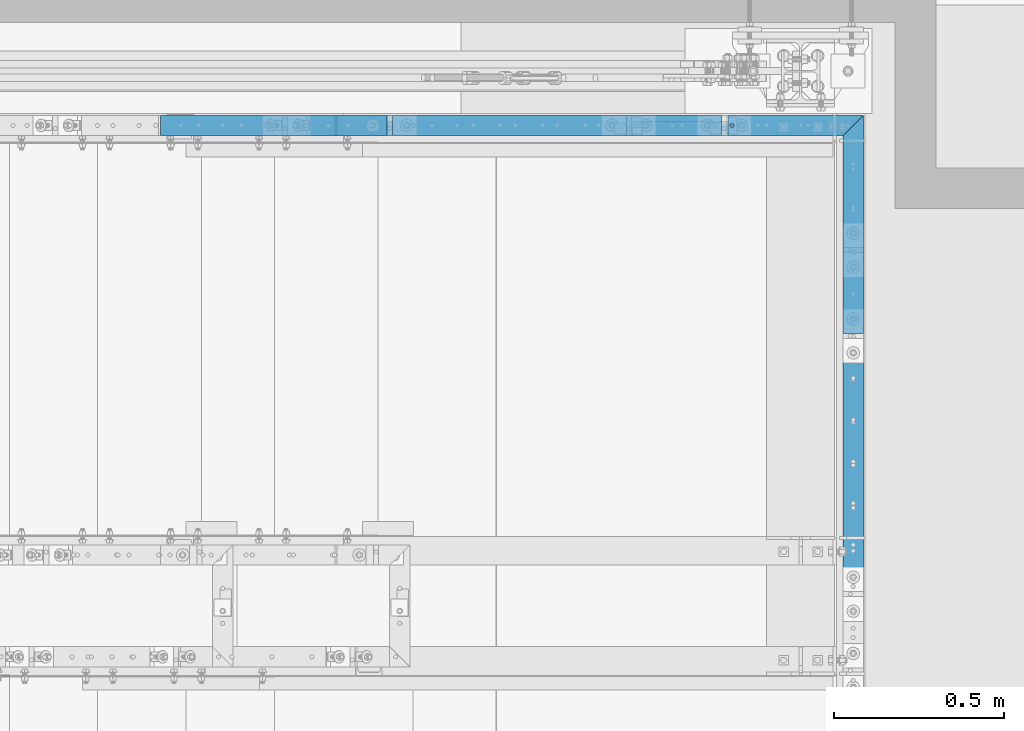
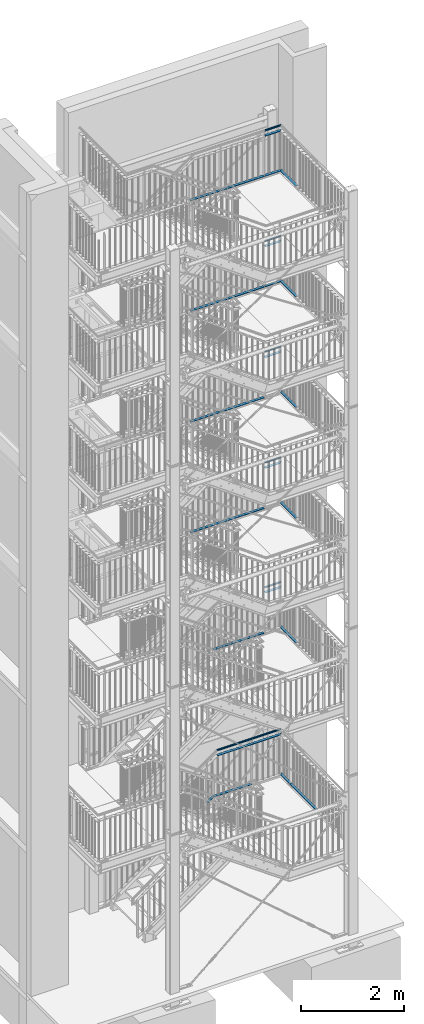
# One storey, part 143 of 831: 34 beams, 1 member, 32 openings.
"""IFC2X3 building model written with IfcOpenShell, lengths in millimetres."""

from ifc_helpers import new_model, entity, si_unit, converted_unit, frame, origin, origin_with_axes, origin_2d, origin_2d_with_axis, place, context, project, spatial, polyline, rectangle, circle, hollow_circle, outline, extrude, clip, halfspace, material, element, save


model = new_model("IFC2X3")

# Units and contexts
model_context = context("Model", 3, precision=1e-09, world=origin_with_axes())
ifc_project = project(units=[si_unit("LENGTHUNIT", "METRE", prefix="MILLI"), si_unit("AREAUNIT", "SQUARE_METRE"), si_unit("VOLUMEUNIT", "CUBIC_METRE"), converted_unit("PLANEANGLEUNIT", "DEGREE", entity("IfcPlaneAngleMeasure", 0.01745329), si_unit("PLANEANGLEUNIT", "RADIAN"), dimensions=[0, 0, 0, 0, 0, 0, 0])], contexts=[model_context])

# Site, building, storey
site_placement = place(None, origin_with_axes())
site = spatial("IfcSite", under=ifc_project, at=site_placement, Name="Site", CompositionType="ELEMENT")
building_placement = place(site_placement, origin_with_axes())
building = spatial("IfcBuilding", under=site, at=building_placement, Name="Struktur 1", CompositionType="ELEMENT")
storey_placement = place(building_placement, origin_with_axes())
storey = spatial("IfcBuildingStorey", under=building, at=storey_placement, Name="Default Storey", CompositionType="ELEMENT", Elevation=0.0)

# Beam, opening
ifc_material = material(Name="S235JR")
beam_1_placement = place(None, frame((6982.019450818, 7356.736971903, 13961.5000001), z_axis=(-1.0, 0.0, 0.0), x_axis=(0.0, 0.0, -1.0)))
beam_1 = element("IfcBeam", 1, at=beam_1_placement, inside=storey, material=ifc_material, Name="Railing_Kneerail_Landing#5", ObjectType="Railing_Kneerail_Landing#5", context=model_context, shape_type="SweptSolid", body=[
    extrude(rectangle(XDim=10.0, YDim=60.0, at=origin_2d()), origin(), (0.0, 0.0, -1.0), 674.694380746),
])
opening_1_placement = place(beam_1_placement, frame((60.0, 0.0, -674.694380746), z_axis=(-1.0, 0.0, 0.0), x_axis=(0.0, 0.0, -1.0)))
element("IfcOpeningElement", 2, at=opening_1_placement, cuts=beam_1, ObjectType="Opening", context=model_context, shape_type="SweptSolid", body=[
    extrude(outline(polyline([(7.501, -30.001), (7.501, 30.001), (-7.501, 30.001), (-7.501, -30.001), (7.501, -30.001)])), origin(), (0.0, 0.0, 1.0), 120.0),
])

# Beam, openings
beam_2_placement = place(None, frame((7656.713831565, 7356.736971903, 13961.5000001), z_axis=(-1.0, 0.0, 0.0), x_axis=(0.0, 0.0, -1.0)))
beam_2 = element("IfcBeam", 3, at=beam_2_placement, inside=storey, material=ifc_material, Name="Railing_Kneerail_Landing#6", ObjectType="Railing_Kneerail_Landing#6", context=model_context, shape_type="SweptSolid", body=[
    extrude(rectangle(XDim=10.0, YDim=60.0, at=origin_2d()), origin(), (0.0, 0.0, -1.0), 985.000142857),
])
opening_2_placement = place(beam_2_placement, frame((60.0, 0.0, -985.000142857), z_axis=(-1.0, 0.0, 0.0), x_axis=(0.0, 0.0, -1.0)))
element("IfcOpeningElement", 4, at=opening_2_placement, cuts=beam_2, ObjectType="Opening", context=model_context, shape_type="SweptSolid", body=[
    extrude(outline(polyline([(-977.499142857, -30.001), (-977.499142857, 30.001), (-992.501142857, 30.001), (-992.501142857, -30.001), (-977.499142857, -30.001)])), origin(), (0.0, 0.0, 1.0), 120.0),
])
opening_3_placement = place(beam_2_placement, frame((60.0, 0.0, -985.000142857), z_axis=(-1.0, 0.0, 0.0), x_axis=(0.0, 0.0, -1.0)))
element("IfcOpeningElement", 5, at=opening_3_placement, cuts=beam_2, ObjectType="Opening", context=model_context, shape_type="SweptSolid", body=[
    extrude(outline(polyline([(7.501, -30.001), (7.501, 30.001), (-7.501, 30.001), (-7.501, -30.001), (7.501, -30.001)])), origin(), (0.0, 0.0, 1.0), 120.0),
])

# Beam, opening
beam_3_placement = place(None, frame((8652.213974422, 7356.736971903, 13961.5000001), z_axis=(-1.0, 0.0, 0.0), x_axis=(0.0, 0.0, -1.0)))
beam_3 = element("IfcBeam", 6, at=beam_3_placement, inside=storey, material=ifc_material, Name="Railing_Kneerail_Landing#7", ObjectType="Railing_Kneerail_Landing#7", context=model_context, shape_type="Clipping", body=[
    clip(extrude(rectangle(XDim=10.0, YDim=60.0, at=origin_2d()), origin(), (0.0, 0.0, -1.0), 412.511054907), halfspace(frame((13961.5000001, 8189.224480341, 7819.726465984), z_axis=(0.0, -0.707106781, 0.707106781), x_axis=(0.0, 0.707106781, 0.707106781)), True)),
])
opening_4_placement = place(beam_3_placement, frame((5.5, 0.0, -11.999999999), z_axis=(-1.0, 0.0, 0.0), x_axis=(0.0, 0.0, -1.0)))
element("IfcOpeningElement", 7, at=opening_4_placement, cuts=beam_3, ObjectType="Opening", context=model_context, shape_type="SweptSolid", body=[
    extrude(circle(Radius=5.001, at=origin_2d_with_axis()), origin(), (0.0, 0.0, 1.0), 11.0),
])

beam_4_placement = place(None, frame((9021.713402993, 7399.748598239, 13961.5000001), z_axis=(0.0, 1.0, 0.0), x_axis=(0.0, 0.0, -1.0)))
beam_4 = element("IfcBeam", 8, at=beam_4_placement, inside=storey, material=ifc_material, Name="Railing_Kneerail_Landing#8", ObjectType="Railing_Kneerail_Landing#8", context=model_context, shape_type="Clipping", body=[
    clip(extrude(rectangle(XDim=10.0, YDim=60.0, at=origin_2d()), origin(), (0.0, 0.0, -1.0), 663.012340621), halfspace(frame((13961.5000001, 8189.224480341, -8232.23752089), z_axis=(0.0, -0.707106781, -0.707106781), x_axis=(0.0, -0.707106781, 0.707106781)), True)),
])
opening_5_placement = place(beam_4_placement, frame((60.0, 0.0, -663.012340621), z_axis=(-1.0, 0.0, 0.0), x_axis=(0.0, -1.0, 0.0)))
element("IfcOpeningElement", 9, at=opening_5_placement, cuts=beam_4, ObjectType="Opening", context=model_context, shape_type="SweptSolid", body=[
    extrude(outline(polyline([(-30.001, -7.501), (30.001, -7.501), (30.001, 7.501), (-30.001, 7.501), (-30.001, -7.501)])), origin(), (0.0, 0.0, 1.0), 120.0),
])

beam_5_placement = place(None, frame((6981.792867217, 7356.736971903, 16589.0000003), z_axis=(-1.0, 0.0, 0.0), x_axis=(0.0, 0.0, -1.0)))
beam_5 = element("IfcBeam", 10, at=beam_5_placement, inside=storey, material=ifc_material, Name="Railing_Kneerail_Landing#5", ObjectType="Railing_Kneerail_Landing#5", context=model_context, shape_type="SweptSolid", body=[
    extrude(rectangle(XDim=10.0, YDim=60.0, at=origin_2d()), origin(), (0.0, 0.0, -1.0), 674.920964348),
])
opening_6_placement = place(beam_5_placement, frame((60.0, 0.0, -674.920964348), z_axis=(-1.0, 0.0, 0.0), x_axis=(0.0, 0.0, -1.0)))
element("IfcOpeningElement", 11, at=opening_6_placement, cuts=beam_5, ObjectType="Opening", context=model_context, shape_type="SweptSolid", body=[
    extrude(outline(polyline([(7.501, -30.001), (7.501, 30.001), (-7.501, 30.001), (-7.501, -30.001), (7.501, -30.001)])), origin(), (0.0, 0.0, 1.0), 120.0),
])

# Beam, openings
beam_6_placement = place(None, frame((7656.713831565, 7356.736971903, 16589.0000003), z_axis=(-1.0, 0.0, 0.0), x_axis=(0.0, 0.0, -1.0)))
beam_6 = element("IfcBeam", 12, at=beam_6_placement, inside=storey, material=ifc_material, Name="Railing_Kneerail_Landing#6", ObjectType="Railing_Kneerail_Landing#6", context=model_context, shape_type="SweptSolid", body=[
    extrude(rectangle(XDim=10.0, YDim=60.0, at=origin_2d()), origin(), (0.0, 0.0, -1.0), 985.000142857),
])
opening_7_placement = place(beam_6_placement, frame((60.0, 0.0, -985.000142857), z_axis=(-1.0, 0.0, 0.0), x_axis=(0.0, 0.0, -1.0)))
element("IfcOpeningElement", 13, at=opening_7_placement, cuts=beam_6, ObjectType="Opening", context=model_context, shape_type="SweptSolid", body=[
    extrude(outline(polyline([(-977.499142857, -30.001), (-977.499142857, 30.001), (-992.501142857, 30.001), (-992.501142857, -30.001), (-977.499142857, -30.001)])), origin(), (0.0, 0.0, 1.0), 120.0),
])
opening_8_placement = place(beam_6_placement, frame((60.0, 0.0, -985.000142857), z_axis=(-1.0, 0.0, 0.0), x_axis=(0.0, 0.0, -1.0)))
element("IfcOpeningElement", 14, at=opening_8_placement, cuts=beam_6, ObjectType="Opening", context=model_context, shape_type="SweptSolid", body=[
    extrude(outline(polyline([(7.501, -30.001), (7.501, 30.001), (-7.501, 30.001), (-7.501, -30.001), (7.501, -30.001)])), origin(), (0.0, 0.0, 1.0), 120.0),
])

# Beam, opening
beam_7_placement = place(None, frame((8652.213974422, 7356.736971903, 16589.0000003), z_axis=(-1.0, 0.0, 0.0), x_axis=(0.0, 0.0, -1.0)))
beam_7 = element("IfcBeam", 15, at=beam_7_placement, inside=storey, material=ifc_material, Name="Railing_Kneerail_Landing#7", ObjectType="Railing_Kneerail_Landing#7", context=model_context, shape_type="Clipping", body=[
    clip(extrude(rectangle(XDim=10.0, YDim=60.0, at=origin_2d()), origin(), (0.0, 0.0, -1.0), 412.511054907), halfspace(frame((16589.0000003, 8189.224480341, 7819.726465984), z_axis=(0.0, -0.707106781, 0.707106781), x_axis=(0.0, 0.707106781, 0.707106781)), True)),
])
opening_9_placement = place(beam_7_placement, frame((5.5, 0.0, -11.999999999), z_axis=(-1.0, 0.0, 0.0), x_axis=(0.0, 0.0, -1.0)))
element("IfcOpeningElement", 16, at=opening_9_placement, cuts=beam_7, ObjectType="Opening", context=model_context, shape_type="SweptSolid", body=[
    extrude(circle(Radius=5.001, at=origin_2d_with_axis()), origin(), (0.0, 0.0, 1.0), 11.0),
])

beam_8_placement = place(None, frame((9021.713402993, 7399.748598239, 16589.0000003), z_axis=(0.0, 1.0, 0.0), x_axis=(0.0, 0.0, -1.0)))
beam_8 = element("IfcBeam", 17, at=beam_8_placement, inside=storey, material=ifc_material, Name="Railing_Kneerail_Landing#8", ObjectType="Railing_Kneerail_Landing#8", context=model_context, shape_type="Clipping", body=[
    clip(extrude(rectangle(XDim=10.0, YDim=60.0, at=origin_2d()), origin(), (0.0, 0.0, -1.0), 663.012340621), halfspace(frame((16589.0000003, 8189.224480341, -8232.23752089), z_axis=(0.0, -0.707106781, -0.707106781), x_axis=(0.0, -0.707106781, 0.707106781)), True)),
])
opening_10_placement = place(beam_8_placement, frame((60.0, 0.0, -663.012340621), z_axis=(-1.0, 0.0, 0.0), x_axis=(0.0, -1.0, 0.0)))
element("IfcOpeningElement", 18, at=opening_10_placement, cuts=beam_8, ObjectType="Opening", context=model_context, shape_type="SweptSolid", body=[
    extrude(outline(polyline([(-30.001, -7.501), (30.001, -7.501), (30.001, 7.501), (-30.001, 7.501), (-30.001, -7.501)])), origin(), (0.0, 0.0, 1.0), 120.0),
])

beam_9_placement = place(None, frame((8652.213974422, 7356.736971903, 17537.8000003), z_axis=(-1.0, 0.0, 0.0), x_axis=(0.0, 0.0, -1.0)))
beam_9 = element("IfcBeam", 19, at=beam_9_placement, inside=storey, material=ifc_material, Name="Railing_Kneerail_Landing#1005", ObjectType="Railing_Kneerail_Landing#1005", context=model_context, shape_type="Clipping", body=[
    clip(extrude(rectangle(XDim=10.0, YDim=60.0, at=origin_2d()), origin(), (0.0, 0.0, -1.0), 412.511054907), halfspace(frame((17537.8000003, 8189.224480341, 7819.726465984), z_axis=(0.0, -0.707106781, 0.707106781), x_axis=(0.0, 0.707106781, 0.707106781)), True)),
])
opening_11_placement = place(beam_9_placement, frame((5.5, 0.0, -11.999999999), z_axis=(-1.0, 0.0, 0.0), x_axis=(0.0, 0.0, -1.0)))
element("IfcOpeningElement", 20, at=opening_11_placement, cuts=beam_9, ObjectType="Opening", context=model_context, shape_type="SweptSolid", body=[
    extrude(circle(Radius=5.001, at=origin_2d_with_axis()), origin(), (0.0, 0.0, 1.0), 11.0),
])

# Beam
beam_10_placement = place(None, frame((8652.213974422, 7347.936971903, 17664.0000003), z_axis=(-1.0, 0.0, 0.0), x_axis=(0.0, 0.0, -1.0)))
element("IfcBeam", 21, at=beam_10_placement, inside=storey, material=ifc_material, Name="Railing_Handrail_Landing#4", ObjectType="Railing_Handrail_Landing#4", context=model_context, shape_type="Clipping", body=[
    clip(extrude(hollow_circle(Radius=21.2, WallThickness=3.2, at=origin_2d()), origin(), (0.0, 0.0, -1.0), 403.099428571), halfspace(frame((17664.0000003, 8180.424480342, 7819.726465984), z_axis=(0.0, -0.707106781, 0.707106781), x_axis=(0.0, 0.707106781, 0.707106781)), True)),
])

# Beam, opening
beam_11_placement = place(None, frame((8652.213974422, 7356.736971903, 14910.3000001), z_axis=(-1.0, 0.0, 0.0), x_axis=(0.0, 0.0, -1.0)))
beam_11 = element("IfcBeam", 22, at=beam_11_placement, inside=storey, material=ifc_material, Name="Railing_Kneerail_Landing#1005", ObjectType="Railing_Kneerail_Landing#1005", context=model_context, shape_type="Clipping", body=[
    clip(extrude(rectangle(XDim=10.0, YDim=60.0, at=origin_2d()), origin(), (0.0, 0.0, -1.0), 412.511054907), halfspace(frame((14910.3000001, 8189.224480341, 7819.726465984), z_axis=(0.0, -0.707106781, 0.707106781), x_axis=(0.0, 0.707106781, 0.707106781)), True)),
])
opening_12_placement = place(beam_11_placement, frame((5.5, 0.0, -11.999999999), z_axis=(-1.0, 0.0, 0.0), x_axis=(0.0, 0.0, -1.0)))
element("IfcOpeningElement", 23, at=opening_12_placement, cuts=beam_11, ObjectType="Opening", context=model_context, shape_type="SweptSolid", body=[
    extrude(circle(Radius=5.001, at=origin_2d_with_axis()), origin(), (0.0, 0.0, 1.0), 11.0),
])

# Beam
beam_12_placement = place(None, frame((8652.213974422, 7347.936971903, 15036.5000001), z_axis=(-1.0, 0.0, 0.0), x_axis=(0.0, 0.0, -1.0)))
element("IfcBeam", 24, at=beam_12_placement, inside=storey, material=ifc_material, Name="Railing_Handrail_Landing#4", ObjectType="Railing_Handrail_Landing#4", context=model_context, shape_type="Clipping", body=[
    clip(extrude(hollow_circle(Radius=21.2, WallThickness=3.2, at=origin_2d()), origin(), (0.0, 0.0, -1.0), 403.099428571), halfspace(frame((15036.5000001, 8180.424480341, 7819.726465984), z_axis=(0.0, -0.707106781, 0.707106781), x_axis=(0.0, 0.707106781, 0.707106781)), True)),
])

# Beam, opening
beam_13_placement = place(None, frame((8652.213974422, 7356.736971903, 12279.3000003), z_axis=(-1.0, 0.0, 0.0), x_axis=(0.0, 0.0, -1.0)))
beam_13 = element("IfcBeam", 25, at=beam_13_placement, inside=storey, material=ifc_material, Name="Railing_Kneerail_Landing#1005", ObjectType="Railing_Kneerail_Landing#1005", context=model_context, shape_type="Clipping", body=[
    clip(extrude(rectangle(XDim=10.0, YDim=60.0, at=origin_2d()), origin(), (0.0, 0.0, -1.0), 412.511054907), halfspace(frame((12279.3000003, 8189.224480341, 7819.726465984), z_axis=(0.0, -0.707106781, 0.707106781), x_axis=(0.0, 0.707106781, 0.707106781)), True)),
])
opening_13_placement = place(beam_13_placement, frame((5.5, 0.0, -11.999999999), z_axis=(-1.0, 0.0, 0.0), x_axis=(0.0, 0.0, -1.0)))
element("IfcOpeningElement", 26, at=opening_13_placement, cuts=beam_13, ObjectType="Opening", context=model_context, shape_type="SweptSolid", body=[
    extrude(circle(Radius=5.001, at=origin_2d_with_axis()), origin(), (0.0, 0.0, 1.0), 11.0),
])

# Beam
beam_14_placement = place(None, frame((8652.213974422, 7347.936971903, 12405.5000003), z_axis=(-1.0, 0.0, 0.0), x_axis=(0.0, 0.0, -1.0)))
element("IfcBeam", 27, at=beam_14_placement, inside=storey, material=ifc_material, Name="Railing_Handrail_Landing#4", ObjectType="Railing_Handrail_Landing#4", context=model_context, shape_type="Clipping", body=[
    clip(extrude(hollow_circle(Radius=21.2, WallThickness=3.2, at=origin_2d()), origin(), (0.0, 0.0, -1.0), 403.099428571), halfspace(frame((12405.5000003, 8180.424480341, 7819.726465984), z_axis=(0.0, -0.707106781, 0.707106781), x_axis=(0.0, 0.707106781, 0.707106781)), True)),
])

# Beam, opening
beam_15_placement = place(None, frame((8652.213974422, 7356.736971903, 9649.8), z_axis=(-1.0, 0.0, 0.0), x_axis=(0.0, 0.0, -1.0)))
beam_15 = element("IfcBeam", 28, at=beam_15_placement, inside=storey, material=ifc_material, Name="Railing_Kneerail_Landing#1005", ObjectType="Railing_Kneerail_Landing#1005", context=model_context, shape_type="Clipping", body=[
    clip(extrude(rectangle(XDim=10.0, YDim=60.0, at=origin_2d()), origin(), (0.0, 0.0, -1.0), 412.511054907), halfspace(frame((9649.8, 8189.224480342, 7819.726465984), z_axis=(0.0, -0.707106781, 0.707106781), x_axis=(0.0, 0.707106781, 0.707106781)), True)),
])
opening_14_placement = place(beam_15_placement, frame((5.5, 0.0, -11.999999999), z_axis=(-1.0, 0.0, 0.0), x_axis=(0.0, 0.0, -1.0)))
element("IfcOpeningElement", 29, at=opening_14_placement, cuts=beam_15, ObjectType="Opening", context=model_context, shape_type="SweptSolid", body=[
    extrude(circle(Radius=5.001, at=origin_2d_with_axis()), origin(), (0.0, 0.0, 1.0), 11.0),
])

# Beam
beam_16_placement = place(None, frame((8652.213974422, 7347.936971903, 9776.0), z_axis=(-1.0, 0.0, 0.0), x_axis=(0.0, 0.0, -1.0)))
element("IfcBeam", 30, at=beam_16_placement, inside=storey, material=ifc_material, Name="Railing_Handrail_Landing#4", ObjectType="Railing_Handrail_Landing#4", context=model_context, shape_type="Clipping", body=[
    clip(extrude(hollow_circle(Radius=21.2, WallThickness=3.2, at=origin_2d()), origin(), (0.0, 0.0, -1.0), 403.099428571), halfspace(frame((9776.0, 8180.424480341, 7819.726465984), z_axis=(0.0, -0.707106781, 0.707106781), x_axis=(0.0, 0.707106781, 0.707106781)), True)),
])

# Beam, opening
beam_17_placement = place(None, frame((8652.213974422, 7356.736971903, 6688.6947367), z_axis=(-1.0, 0.0, 0.0), x_axis=(0.0, 0.0, -1.0)))
beam_17 = element("IfcBeam", 31, at=beam_17_placement, inside=storey, material=ifc_material, Name="Railing_Kneerail_Landing#1005", ObjectType="Railing_Kneerail_Landing#1005", context=model_context, shape_type="Clipping", body=[
    clip(extrude(rectangle(XDim=10.0, YDim=60.0, at=origin_2d()), origin(), (0.0, 0.0, -1.0), 412.511054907), halfspace(frame((6688.6947367, 8189.224480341, 7819.726465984), z_axis=(0.0, -0.707106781, 0.707106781), x_axis=(0.0, 0.707106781, 0.707106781)), True)),
])
opening_15_placement = place(beam_17_placement, frame((5.5, 0.0, -11.999999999), z_axis=(-1.0, 0.0, 0.0), x_axis=(0.0, 0.0, -1.0)))
element("IfcOpeningElement", 32, at=opening_15_placement, cuts=beam_17, ObjectType="Opening", context=model_context, shape_type="SweptSolid", body=[
    extrude(circle(Radius=5.001, at=origin_2d_with_axis()), origin(), (0.0, 0.0, 1.0), 11.0),
])

# Beams
beam_18_placement = place(None, frame((8652.213974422, 7347.936971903, 6814.8947367), z_axis=(-1.0, 0.0, 0.0), x_axis=(0.0, 0.0, -1.0)))
element("IfcBeam", 33, at=beam_18_placement, inside=storey, material=ifc_material, Name="Railing_Handrail_Landing#4", ObjectType="Railing_Handrail_Landing#4", context=model_context, shape_type="Clipping", body=[
    clip(extrude(hollow_circle(Radius=21.2, WallThickness=3.2, at=origin_2d()), origin(), (0.0, 0.0, -1.0), 403.099428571), halfspace(frame((6814.8947367, 8180.424480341, 7819.726465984), z_axis=(0.0, -0.707106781, 0.707106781), x_axis=(0.0, 0.707106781, 0.707106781)), True)),
])
beam_19_placement = place(None, frame((7586.685208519, 7356.736971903, 3194.8526312), z_axis=(-1.0, 0.0, 0.0), x_axis=(0.0, 0.0, -1.0)))
element("IfcBeam", 34, at=beam_19_placement, inside=storey, material=ifc_material, Name="Railing_Kneerail_Landing#1004", ObjectType="Railing_Kneerail_Landing#1004", context=model_context, shape_type="SweptSolid", body=[
    extrude(rectangle(XDim=10.0, YDim=60.0, at=origin_2d()), origin(), (0.0, 0.0, -1.0), 781.759017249),
])

# Beam, opening
beam_20_placement = place(None, frame((8371.444225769, 7356.736971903, 3194.8526312), z_axis=(-1.0, 0.0, 0.0), x_axis=(0.0, 0.0, -1.0)))
beam_20 = element("IfcBeam", 35, at=beam_20_placement, inside=storey, material=ifc_material, Name="Railing_Kneerail_Landing#1004", ObjectType="Railing_Kneerail_Landing#1004", context=model_context, shape_type="Clipping", body=[
    clip(extrude(rectangle(XDim=10.0, YDim=60.0, at=origin_2d()), origin(), (0.0, 0.0, -1.0), 693.28080356), halfspace(frame((3194.8526312, 8189.224480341, 7538.95671733), z_axis=(0.0, -0.707106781, 0.707106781), x_axis=(0.0, 0.707106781, 0.707106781)), True)),
])
opening_16_placement = place(beam_20_placement, frame((5.5, 0.0, -11.999999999), z_axis=(-1.0, 0.0, 0.0), x_axis=(0.0, 0.0, -1.0)))
element("IfcOpeningElement", 36, at=opening_16_placement, cuts=beam_20, ObjectType="Opening", context=model_context, shape_type="SweptSolid", body=[
    extrude(circle(Radius=5.001, at=origin_2d_with_axis()), origin(), (0.0, 0.0, 1.0), 11.0),
])

# Beams
beam_21_placement = place(None, frame((7545.238006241, 7347.936971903, 3321.0526312), z_axis=(-1.0, 0.0, 0.0), x_axis=(0.0, 0.0, -1.0)))
element("IfcBeam", 37, at=beam_21_placement, inside=storey, material=ifc_material, Name="Railing_Handrail_Landing#3", ObjectType="Railing_Handrail_Landing#3", context=model_context, shape_type="Clipping", body=[
    clip(extrude(hollow_circle(Radius=21.2, WallThickness=3.2, at=origin_2d()), origin(), (0.0, 0.0, -1.0), 823.206219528), halfspace(frame((816.100663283, 7347.936971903, -292.309687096), z_axis=(-0.304437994, 0.0, -0.952532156), x_axis=(0.0, -1.0, 0.0)), True)),
])
beam_22_placement = place(None, frame((8371.444225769, 7347.936971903, 3321.0526312), z_axis=(-1.0, 0.0, 0.0), x_axis=(0.0, 0.0, -1.0)))
element("IfcBeam", 38, at=beam_22_placement, inside=storey, material=ifc_material, Name="Railing_Handrail_Landing#3", ObjectType="Railing_Handrail_Landing#3", context=model_context, shape_type="Clipping", body=[
    clip(extrude(hollow_circle(Radius=21.2, WallThickness=3.2, at=origin_2d()), origin(), (0.0, 0.0, -1.0), 683.869177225), halfspace(frame((3321.0526312, 8180.424480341, 7538.95671733), z_axis=(0.0, -0.707106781, 0.707106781), x_axis=(0.0, 0.707106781, 0.707106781)), True)),
])

# Member
member_placement = place(None, frame((7358.266977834, 7356.736971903, 2145.321492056), z_axis=(-0.814635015, 0.0, -0.579973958), x_axis=(0.579973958, 0.0, -0.814635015)))
element("IfcMember", 39, at=member_placement, inside=storey, material=ifc_material, Name="Railing_Kneerail_Stair#3", ObjectType="Railing_Kneerail_Stair#3", context=model_context, shape_type="SweptSolid", body=[
    extrude(rectangle(XDim=10.0, YDim=60.0, at=origin_2d()), origin(), (0.0, 0.0, -1.0), 172.084130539),
])

# Beam, opening
beam_23_placement = place(None, frame((7501.352605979, 7356.736971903, 2246.0526312), z_axis=(-1.0, 0.0, 0.0), x_axis=(0.0, 0.0, -1.0)))
beam_23 = element("IfcBeam", 40, at=beam_23_placement, inside=storey, material=ifc_material, Name="Railing_Kneerail_Landing#4", ObjectType="Railing_Kneerail_Landing#4", context=model_context, shape_type="SweptSolid", body=[
    extrude(rectangle(XDim=10.0, YDim=60.0, at=origin_2d()), origin(), (0.0, 0.0, -1.0), 859.59161979),
])
opening_17_placement = place(beam_23_placement, frame((60.0, 0.0, -859.59161979), z_axis=(-1.0, 0.0, 0.0), x_axis=(0.0, 0.0, -1.0)))
element("IfcOpeningElement", 41, at=opening_17_placement, cuts=beam_23, ObjectType="Opening", context=model_context, shape_type="SweptSolid", body=[
    extrude(outline(polyline([(7.501, -30.001), (7.501, 30.001), (-7.501, 30.001), (-7.501, -30.001), (7.501, -30.001)])), origin(), (0.0, 0.0, 1.0), 120.0),
])

beam_24_placement = place(None, frame((9021.713402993, 7399.748598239, 2246.0526312), z_axis=(0.0, 1.0, 0.0), x_axis=(0.0, 0.0, -1.0)))
beam_24 = element("IfcBeam", 42, at=beam_24_placement, inside=storey, material=ifc_material, Name="Railing_Kneerail_Landing#6", ObjectType="Railing_Kneerail_Landing#6", context=model_context, shape_type="Clipping", body=[
    clip(extrude(rectangle(XDim=10.0, YDim=60.0, at=origin_2d()), origin(), (0.0, 0.0, -1.0), 410.319566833), halfspace(frame((2246.0526312, 8189.224480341, -8232.23752089), z_axis=(0.0, -0.707106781, -0.707106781), x_axis=(0.0, -0.707106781, 0.707106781)), True)),
])
opening_18_placement = place(beam_24_placement, frame((60.0, 0.0, -410.319566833), z_axis=(-1.0, 0.0, 0.0), x_axis=(0.0, -1.0, 0.0)))
element("IfcOpeningElement", 43, at=opening_18_placement, cuts=beam_24, ObjectType="Opening", context=model_context, shape_type="SweptSolid", body=[
    extrude(outline(polyline([(-30.001, -7.501), (30.001, -7.501), (30.001, 7.501), (-30.001, 7.501), (-30.001, -7.501)])), origin(), (0.0, 0.0, 1.0), 120.0),
])

# Beam, openings
beam_25_placement = place(None, frame((9021.713402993, 6989.429031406, 2246.0526312), z_axis=(0.0, 1.0, 0.0), x_axis=(0.0, 0.0, -1.0)))
beam_25 = element("IfcBeam", 44, at=beam_25_placement, inside=storey, material=ifc_material, Name="Railing_Kneerail_Landing#7", ObjectType="Railing_Kneerail_Landing#7", context=model_context, shape_type="SweptSolid", body=[
    extrude(rectangle(XDim=10.0, YDim=60.0, at=origin_2d()), origin(), (0.0, 0.0, -1.0), 1013.077117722),
])
opening_19_placement = place(beam_25_placement, frame((60.0, 0.0, -1013.077117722), z_axis=(-1.0, 0.0, 0.0), x_axis=(0.0, -1.0, 0.0)))
element("IfcOpeningElement", 45, at=opening_19_placement, cuts=beam_25, ObjectType="Opening", context=model_context, shape_type="SweptSolid", body=[
    extrude(outline(polyline([(-30.001, 1005.576117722), (30.001, 1005.576117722), (30.001, 1020.578117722), (-30.001, 1020.578117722), (-30.001, 1005.576117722)])), origin(), (0.0, 0.0, 1.0), 120.0),
])
opening_20_placement = place(beam_25_placement, frame((60.0, 0.0, -1013.077117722), z_axis=(-1.0, 0.0, 0.0), x_axis=(0.0, -1.0, 0.0)))
element("IfcOpeningElement", 46, at=opening_20_placement, cuts=beam_25, ObjectType="Opening", context=model_context, shape_type="SweptSolid", body=[
    extrude(outline(polyline([(-30.001, -7.501), (30.001, -7.501), (30.001, 7.501), (-30.001, 7.501), (-30.001, -7.501)])), origin(), (0.0, 0.0, 1.0), 120.0),
])

# Beam, opening
beam_26_placement = place(None, frame((7500.836877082, 7356.736971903, 5739.8947367), z_axis=(-1.0, 0.0, 0.0), x_axis=(0.0, 0.0, -1.0)))
beam_26 = element("IfcBeam", 47, at=beam_26_placement, inside=storey, material=ifc_material, Name="Railing_Kneerail_Landing#5", ObjectType="Railing_Kneerail_Landing#5", context=model_context, shape_type="SweptSolid", body=[
    extrude(rectangle(XDim=10.0, YDim=60.0, at=origin_2d()), origin(), (0.0, 0.0, -1.0), 155.876954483),
])
opening_21_placement = place(beam_26_placement, frame((60.0, 0.0, -155.876954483), z_axis=(-1.0, 0.0, 0.0), x_axis=(0.0, 0.0, -1.0)))
element("IfcOpeningElement", 48, at=opening_21_placement, cuts=beam_26, ObjectType="Opening", context=model_context, shape_type="SweptSolid", body=[
    extrude(outline(polyline([(7.501, -30.001), (7.501, 30.001), (-7.501, 30.001), (-7.501, -30.001), (7.501, -30.001)])), origin(), (0.0, 0.0, 1.0), 120.0),
])

# Beam, openings
beam_27_placement = place(None, frame((7656.713831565, 7356.736971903, 5739.8947367), z_axis=(-1.0, 0.0, 0.0), x_axis=(0.0, 0.0, -1.0)))
beam_27 = element("IfcBeam", 49, at=beam_27_placement, inside=storey, material=ifc_material, Name="Railing_Kneerail_Landing#6", ObjectType="Railing_Kneerail_Landing#6", context=model_context, shape_type="SweptSolid", body=[
    extrude(rectangle(XDim=10.0, YDim=60.0, at=origin_2d()), origin(), (0.0, 0.0, -1.0), 985.000142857),
])
opening_22_placement = place(beam_27_placement, frame((60.0, 0.0, -985.000142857), z_axis=(-1.0, 0.0, 0.0), x_axis=(0.0, 0.0, -1.0)))
element("IfcOpeningElement", 50, at=opening_22_placement, cuts=beam_27, ObjectType="Opening", context=model_context, shape_type="SweptSolid", body=[
    extrude(outline(polyline([(-977.499142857, -30.001), (-977.499142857, 30.001), (-992.501142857, 30.001), (-992.501142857, -30.001), (-977.499142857, -30.001)])), origin(), (0.0, 0.0, 1.0), 120.0),
])
opening_23_placement = place(beam_27_placement, frame((60.0, 0.0, -985.000142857), z_axis=(-1.0, 0.0, 0.0), x_axis=(0.0, 0.0, -1.0)))
element("IfcOpeningElement", 51, at=opening_23_placement, cuts=beam_27, ObjectType="Opening", context=model_context, shape_type="SweptSolid", body=[
    extrude(outline(polyline([(7.501, -30.001), (7.501, 30.001), (-7.501, 30.001), (-7.501, -30.001), (7.501, -30.001)])), origin(), (0.0, 0.0, 1.0), 120.0),
])

# Beam, opening
beam_28_placement = place(None, frame((9021.713402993, 7399.748598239, 5739.8947367), z_axis=(0.0, 1.0, 0.0), x_axis=(0.0, 0.0, -1.0)))
beam_28 = element("IfcBeam", 52, at=beam_28_placement, inside=storey, material=ifc_material, Name="Railing_Kneerail_Landing#8", ObjectType="Railing_Kneerail_Landing#8", context=model_context, shape_type="Clipping", body=[
    clip(extrude(rectangle(XDim=10.0, YDim=60.0, at=origin_2d()), origin(), (0.0, 0.0, -1.0), 663.012340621), halfspace(frame((5739.8947367, 8189.224480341, -8232.23752089), z_axis=(0.0, -0.707106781, -0.707106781), x_axis=(0.0, -0.707106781, 0.707106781)), True)),
])
opening_24_placement = place(beam_28_placement, frame((60.0, 0.0, -663.012340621), z_axis=(-1.0, 0.0, 0.0), x_axis=(0.0, -1.0, 0.0)))
element("IfcOpeningElement", 53, at=opening_24_placement, cuts=beam_28, ObjectType="Opening", context=model_context, shape_type="SweptSolid", body=[
    extrude(outline(polyline([(-30.001, -7.501), (30.001, -7.501), (30.001, 7.501), (-30.001, 7.501), (-30.001, -7.501)])), origin(), (0.0, 0.0, 1.0), 120.0),
])

beam_29_placement = place(None, frame((6981.974400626, 7356.736971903, 8701.0), z_axis=(-1.0, 0.0, 0.0), x_axis=(0.0, 0.0, -1.0)))
beam_29 = element("IfcBeam", 54, at=beam_29_placement, inside=storey, material=ifc_material, Name="Railing_Kneerail_Landing#5", ObjectType="Railing_Kneerail_Landing#5", context=model_context, shape_type="SweptSolid", body=[
    extrude(rectangle(XDim=10.0, YDim=60.0, at=origin_2d()), origin(), (0.0, 0.0, -1.0), 674.739430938),
])
opening_25_placement = place(beam_29_placement, frame((60.0, 0.0, -674.739430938), z_axis=(-1.0, 0.0, 0.0), x_axis=(0.0, 0.0, -1.0)))
element("IfcOpeningElement", 55, at=opening_25_placement, cuts=beam_29, ObjectType="Opening", context=model_context, shape_type="SweptSolid", body=[
    extrude(outline(polyline([(7.501, -30.001), (7.501, 30.001), (-7.501, 30.001), (-7.501, -30.001), (7.501, -30.001)])), origin(), (0.0, 0.0, 1.0), 120.0),
])

# Beam, openings
beam_30_placement = place(None, frame((7656.713831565, 7356.736971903, 8701.0), z_axis=(-1.0, 0.0, 0.0), x_axis=(0.0, 0.0, -1.0)))
beam_30 = element("IfcBeam", 56, at=beam_30_placement, inside=storey, material=ifc_material, Name="Railing_Kneerail_Landing#6", ObjectType="Railing_Kneerail_Landing#6", context=model_context, shape_type="SweptSolid", body=[
    extrude(rectangle(XDim=10.0, YDim=60.0, at=origin_2d()), origin(), (0.0, 0.0, -1.0), 985.000142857),
])
opening_26_placement = place(beam_30_placement, frame((60.0, 0.0, -985.000142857), z_axis=(-1.0, 0.0, 0.0), x_axis=(0.0, 0.0, -1.0)))
element("IfcOpeningElement", 57, at=opening_26_placement, cuts=beam_30, ObjectType="Opening", context=model_context, shape_type="SweptSolid", body=[
    extrude(outline(polyline([(-977.499142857, -30.001), (-977.499142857, 30.001), (-992.501142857, 30.001), (-992.501142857, -30.001), (-977.499142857, -30.001)])), origin(), (0.0, 0.0, 1.0), 120.0),
])
opening_27_placement = place(beam_30_placement, frame((60.0, 0.0, -985.000142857), z_axis=(-1.0, 0.0, 0.0), x_axis=(0.0, 0.0, -1.0)))
element("IfcOpeningElement", 58, at=opening_27_placement, cuts=beam_30, ObjectType="Opening", context=model_context, shape_type="SweptSolid", body=[
    extrude(outline(polyline([(7.501, -30.001), (7.501, 30.001), (-7.501, 30.001), (-7.501, -30.001), (7.501, -30.001)])), origin(), (0.0, 0.0, 1.0), 120.0),
])

# Beam, opening
beam_31_placement = place(None, frame((9021.713402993, 7399.748598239, 8701.0), z_axis=(0.0, 1.0, 0.0), x_axis=(0.0, 0.0, -1.0)))
beam_31 = element("IfcBeam", 59, at=beam_31_placement, inside=storey, material=ifc_material, Name="Railing_Kneerail_Landing#8", ObjectType="Railing_Kneerail_Landing#8", context=model_context, shape_type="Clipping", body=[
    clip(extrude(rectangle(XDim=10.0, YDim=60.0, at=origin_2d()), origin(), (0.0, 0.0, -1.0), 663.012340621), halfspace(frame((8701.0, 8189.224480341, -8232.23752089), z_axis=(0.0, -0.707106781, -0.707106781), x_axis=(0.0, -0.707106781, 0.707106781)), True)),
])
opening_28_placement = place(beam_31_placement, frame((60.0, 0.0, -663.012340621), z_axis=(-1.0, 0.0, 0.0), x_axis=(0.0, -1.0, 0.0)))
element("IfcOpeningElement", 60, at=opening_28_placement, cuts=beam_31, ObjectType="Opening", context=model_context, shape_type="SweptSolid", body=[
    extrude(outline(polyline([(-30.001, -7.501), (30.001, -7.501), (30.001, 7.501), (-30.001, 7.501), (-30.001, -7.501)])), origin(), (0.0, 0.0, 1.0), 120.0),
])

beam_32_placement = place(None, frame((6981.89902139, 7356.736971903, 11330.5000003), z_axis=(-1.0, 0.0, 0.0), x_axis=(0.0, 0.0, -1.0)))
beam_32 = element("IfcBeam", 61, at=beam_32_placement, inside=storey, material=ifc_material, Name="Railing_Kneerail_Landing#5", ObjectType="Railing_Kneerail_Landing#5", context=model_context, shape_type="SweptSolid", body=[
    extrude(rectangle(XDim=10.0, YDim=60.0, at=origin_2d()), origin(), (0.0, 0.0, -1.0), 674.814810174),
])
opening_29_placement = place(beam_32_placement, frame((60.0, 0.0, -674.814810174), z_axis=(-1.0, 0.0, 0.0), x_axis=(0.0, 0.0, -1.0)))
element("IfcOpeningElement", 62, at=opening_29_placement, cuts=beam_32, ObjectType="Opening", context=model_context, shape_type="SweptSolid", body=[
    extrude(outline(polyline([(7.501, -30.001), (7.501, 30.001), (-7.501, 30.001), (-7.501, -30.001), (7.501, -30.001)])), origin(), (0.0, 0.0, 1.0), 120.0),
])

# Beam, openings
beam_33_placement = place(None, frame((7656.713831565, 7356.736971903, 11330.5000003), z_axis=(-1.0, 0.0, 0.0), x_axis=(0.0, 0.0, -1.0)))
beam_33 = element("IfcBeam", 63, at=beam_33_placement, inside=storey, material=ifc_material, Name="Railing_Kneerail_Landing#6", ObjectType="Railing_Kneerail_Landing#6", context=model_context, shape_type="SweptSolid", body=[
    extrude(rectangle(XDim=10.0, YDim=60.0, at=origin_2d()), origin(), (0.0, 0.0, -1.0), 985.000142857),
])
opening_30_placement = place(beam_33_placement, frame((60.0, 0.0, -985.000142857), z_axis=(-1.0, 0.0, 0.0), x_axis=(0.0, 0.0, -1.0)))
element("IfcOpeningElement", 64, at=opening_30_placement, cuts=beam_33, ObjectType="Opening", context=model_context, shape_type="SweptSolid", body=[
    extrude(outline(polyline([(-977.499142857, -30.001), (-977.499142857, 30.001), (-992.501142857, 30.001), (-992.501142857, -30.001), (-977.499142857, -30.001)])), origin(), (0.0, 0.0, 1.0), 120.0),
])
opening_31_placement = place(beam_33_placement, frame((60.0, 0.0, -985.000142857), z_axis=(-1.0, 0.0, 0.0), x_axis=(0.0, 0.0, -1.0)))
element("IfcOpeningElement", 65, at=opening_31_placement, cuts=beam_33, ObjectType="Opening", context=model_context, shape_type="SweptSolid", body=[
    extrude(outline(polyline([(7.501, -30.001), (7.501, 30.001), (-7.501, 30.001), (-7.501, -30.001), (7.501, -30.001)])), origin(), (0.0, 0.0, 1.0), 120.0),
])

# Beam, opening
beam_34_placement = place(None, frame((9021.713402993, 7399.748598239, 11330.5000003), z_axis=(0.0, 1.0, 0.0), x_axis=(0.0, 0.0, -1.0)))
beam_34 = element("IfcBeam", 66, at=beam_34_placement, inside=storey, material=ifc_material, Name="Railing_Kneerail_Landing#8", ObjectType="Railing_Kneerail_Landing#8", context=model_context, shape_type="Clipping", body=[
    clip(extrude(rectangle(XDim=10.0, YDim=60.0, at=origin_2d()), origin(), (0.0, 0.0, -1.0), 663.012340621), halfspace(frame((11330.5000003, 8189.224480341, -8232.23752089), z_axis=(0.0, -0.707106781, -0.707106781), x_axis=(0.0, -0.707106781, 0.707106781)), True)),
])
opening_32_placement = place(beam_34_placement, frame((60.0, 0.0, -663.012340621), z_axis=(-1.0, 0.0, 0.0), x_axis=(0.0, -1.0, 0.0)))
element("IfcOpeningElement", 67, at=opening_32_placement, cuts=beam_34, ObjectType="Opening", context=model_context, shape_type="SweptSolid", body=[
    extrude(outline(polyline([(-30.001, -7.501), (30.001, -7.501), (30.001, 7.501), (-30.001, 7.501), (-30.001, -7.501)])), origin(), (0.0, 0.0, 1.0), 120.0),
])

save(model, "model.ifc")
